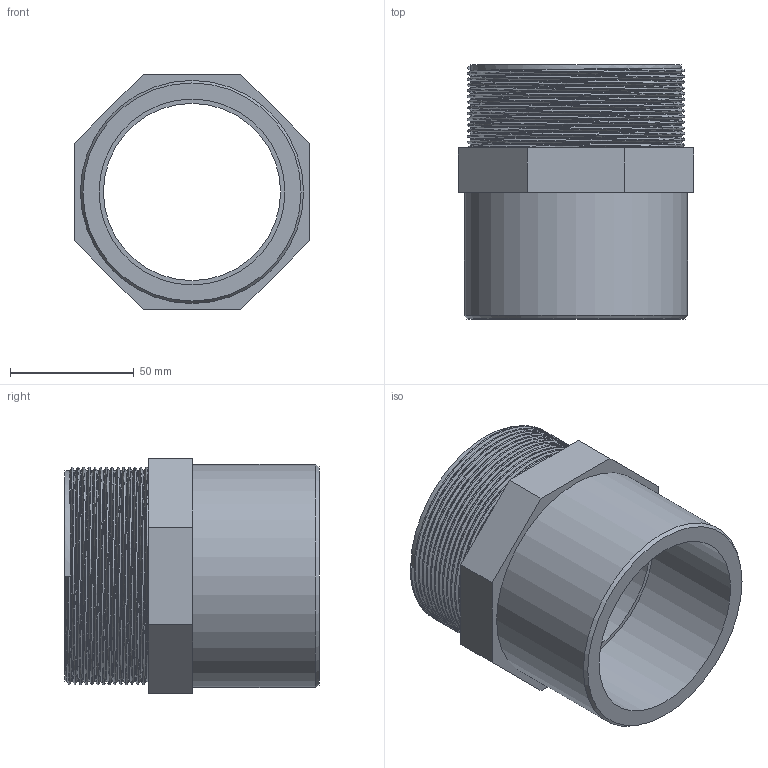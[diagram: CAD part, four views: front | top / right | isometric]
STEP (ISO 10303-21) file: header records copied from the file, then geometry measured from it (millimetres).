
FILE_DESCRIPTION(/* description */ ('PVC adattatore incollaggio-filettatura BSP maschio'),/* implementation_level */ '2;1');
FILE_NAME(/* name */ 'C:\Users\POLYPIPE\Desktop\DATASET INVENTOR\LIBRERIA EFFAST\RACCORDI 3DxWEB\RGR\3D_RGRAMG\3D_RGRAMG075I.stp',/* time_stamp */ '2018-01-19T17:37:15+01:00',/* author */ ('POLYPIPE'),/* organization */ ('Polypipe Italia s.r.l.'),/* preprocessor_version */ 'ST-DEVELOPER v16.1',/* originating_system */ 'Autodesk Inventor 2016',/* authorisation */ '');
FILE_SCHEMA (('CONFIG_CONTROL_DESIGN'));
Length unit declared in the file: millimetre
Products named in the file (1): 3D_RGRAMG
Bounding box: 95 x 102.5 x 95 mm (x, y, z)
Volume: 220936.1 mm3; surface area: 65583.5 mm2
Topology: 1 solids, 1 shells, 26 faces, 56 edges, 36 vertices
Faces by surface type: plane 15, cylinder 5, bspline 5, cone 1
Full cylindrical faces by diameter (mm): 71.5 x1, 72.5 x1, 75 x1, 84.926 x1, 90 x1
Entity records: 5977 total; most frequent: CARTESIAN_POINT 5424, ORIENTED_EDGE 102, DIRECTION 97, EDGE_CURVE 51, EDGE_LOOP 37, VERTEX_POINT 36, AXIS2_PLACEMENT_3D 35, LINE 27
